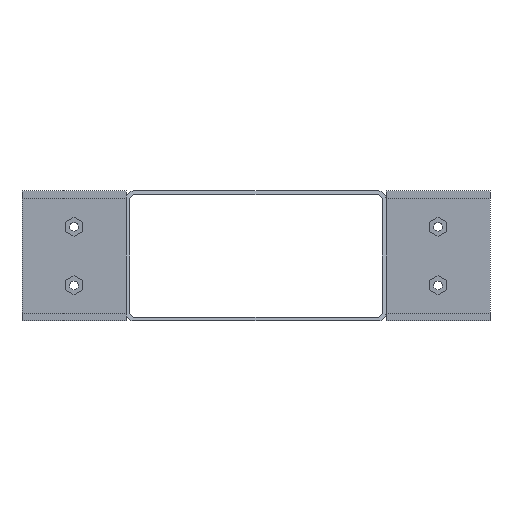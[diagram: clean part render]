
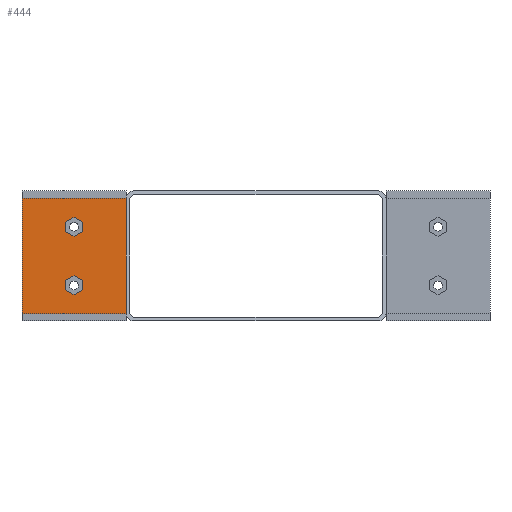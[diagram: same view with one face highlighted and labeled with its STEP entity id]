
A CAD part, front view. The second image highlights one B-rep face of the part: STEP entity #444.
In plain terms, the highlighted planar face has unit normal (0, -1, 0).
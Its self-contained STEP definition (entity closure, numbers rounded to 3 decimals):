
#192=FACE_BOUND('',#772,.T.);
#193=FACE_BOUND('',#773,.T.);
#194=FACE_BOUND('',#774,.T.);
#288=PLANE('',#3149);
#444=ADVANCED_FACE('',(#192,#193,#194),#288,.T.);
#772=EDGE_LOOP('',(#1731,#1732,#1733,#1734));
#773=EDGE_LOOP('',(#1735));
#774=EDGE_LOOP('',(#1736));
#1001=LINE('',#4203,#1321);
#1005=LINE('',#4212,#1325);
#1008=LINE('',#4218,#1328);
#1011=LINE('',#4224,#1331);
#1321=VECTOR('',#3440,1.);
#1325=VECTOR('',#3446,1.);
#1328=VECTOR('',#3451,1.);
#1331=VECTOR('',#3456,1.);
#1731=ORIENTED_EDGE('',*,*,#2659,.T.);
#1732=ORIENTED_EDGE('',*,*,#2656,.T.);
#1733=ORIENTED_EDGE('',*,*,#2653,.T.);
#1734=ORIENTED_EDGE('',*,*,#2649,.T.);
#1735=ORIENTED_EDGE('',*,*,#2664,.T.);
#1736=ORIENTED_EDGE('',*,*,#2662,.T.);
#2377=VERTEX_POINT('',#4204);
#2378=VERTEX_POINT('',#4205);
#2381=VERTEX_POINT('',#4213);
#2383=VERTEX_POINT('',#4219);
#2386=VERTEX_POINT('',#4230);
#2388=VERTEX_POINT('',#4235);
#2649=EDGE_CURVE('',#2377,#2378,#1001,.T.);
#2653=EDGE_CURVE('',#2381,#2377,#1005,.T.);
#2656=EDGE_CURVE('',#2383,#2381,#1008,.T.);
#2659=EDGE_CURVE('',#2378,#2383,#1011,.T.);
#2662=EDGE_CURVE('',#2386,#2386,#3064,.T.);
#2664=EDGE_CURVE('',#2388,#2388,#3066,.T.);
#3064=CIRCLE('',#3143,3.4);
#3066=CIRCLE('',#3146,3.4);
#3143=AXIS2_PLACEMENT_3D('',#4229,#3462,#3463);
#3146=AXIS2_PLACEMENT_3D('',#4234,#3468,#3469);
#3149=AXIS2_PLACEMENT_3D('',#4238,#3474,#3475);
#3440=DIRECTION('',(-1.,0.,0.));
#3446=DIRECTION('',(0.,0.,1.));
#3451=DIRECTION('',(1.,0.,0.));
#3456=DIRECTION('',(0.,0.,-1.));
#3462=DIRECTION('',(0.,1.,0.));
#3463=DIRECTION('',(0.,0.,-1.));
#3468=DIRECTION('',(0.,1.,0.));
#3469=DIRECTION('',(0.,0.,-1.));
#3474=DIRECTION('',(0.,-1.,0.));
#3475=DIRECTION('',(0.,0.,-1.));
#4203=CARTESIAN_POINT('',(-100.,740.,-10.));
#4204=CARTESIAN_POINT('',(-100.,740.,-10.));
#4205=CARTESIAN_POINT('',(-180.,740.,-10.));
#4212=CARTESIAN_POINT('',(-100.,740.,-110.));
#4213=CARTESIAN_POINT('',(-100.,740.,-110.));
#4218=CARTESIAN_POINT('',(-180.,740.,-110.));
#4219=CARTESIAN_POINT('',(-180.,740.,-110.));
#4224=CARTESIAN_POINT('',(-180.,740.,-10.));
#4229=CARTESIAN_POINT('',(-140.,740.,-82.5));
#4230=CARTESIAN_POINT('',(-140.,740.,-85.9));
#4234=CARTESIAN_POINT('',(-140.,740.,-37.5));
#4235=CARTESIAN_POINT('',(-140.,740.,-40.9));
#4238=CARTESIAN_POINT('',(-280.,740.,-10.));
